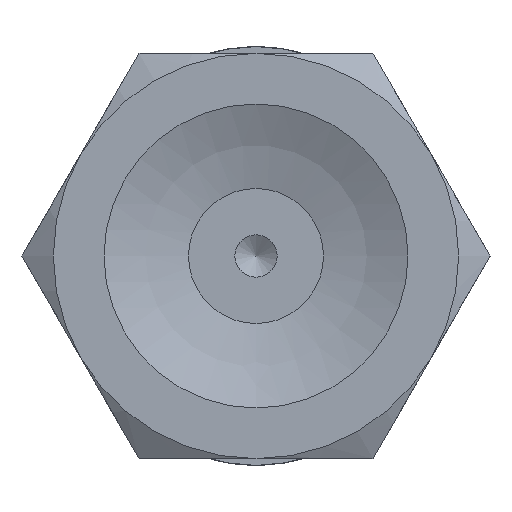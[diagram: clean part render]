
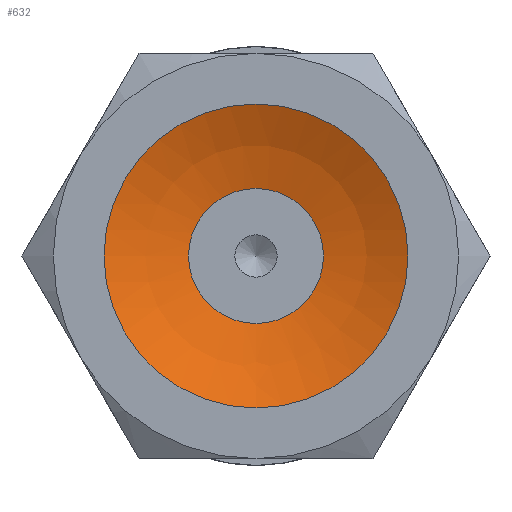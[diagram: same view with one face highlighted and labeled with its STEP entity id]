
A CAD part, front view. The second image highlights one B-rep face of the part: STEP entity #632.
In plain terms, the highlighted spherical face has radius 10.203 mm.
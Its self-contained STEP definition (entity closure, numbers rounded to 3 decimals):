
#632=ADVANCED_FACE('',(#978,#979),#980,.F.);
#978=FACE_OUTER_BOUND('',#1417,.T.);
#979=FACE_OUTER_BOUND('',#1418,.T.);
#980=SPHERICAL_SURFACE('',#1419,10.203);
#1417=EDGE_LOOP('',(#2574));
#1418=EDGE_LOOP('',(#2575));
#1419=AXIS2_PLACEMENT_3D('',#2576,#2577,#2578);
#2574=ORIENTED_EDGE('',*,*,#3154,.T.);
#2575=ORIENTED_EDGE('',*,*,#3145,.F.);
#2576=CARTESIAN_POINT('',(0.,-9.157,0.));
#2577=DIRECTION('',(0.0,-1.0,0.));
#2578=DIRECTION('',(1.0,0.0,0.0));
#3145=EDGE_CURVE('',#3597,#3597,#3598,.T.);
#3154=EDGE_CURVE('',#3615,#3615,#3616,.T.);
#3597=VERTEX_POINT('',#4725);
#3598=CIRCLE('',#4726,2.);
#3615=VERTEX_POINT('',#4743);
#3616=CIRCLE('',#4744,4.5);
#4725=CARTESIAN_POINT('',(0.0,0.848,-2.));
#4726=AXIS2_PLACEMENT_3D('',#5510,#5511,#5512);
#4743=CARTESIAN_POINT('',(0.0,0.,-4.5));
#4744=AXIS2_PLACEMENT_3D('',#5537,#5538,#5539);
#5510=CARTESIAN_POINT('',(0.0,0.848,0.0));
#5511=DIRECTION('',(0.0,-1.0,0.));
#5512=DIRECTION('',(0.0,0.,-1.0));
#5537=CARTESIAN_POINT('',(0.0,0.,0.0));
#5538=DIRECTION('',(0.0,-1.0,0.));
#5539=DIRECTION('',(0.0,0.,-1.0));
